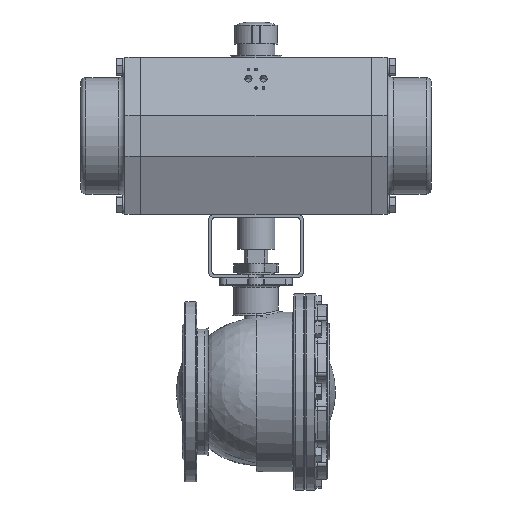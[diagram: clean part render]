
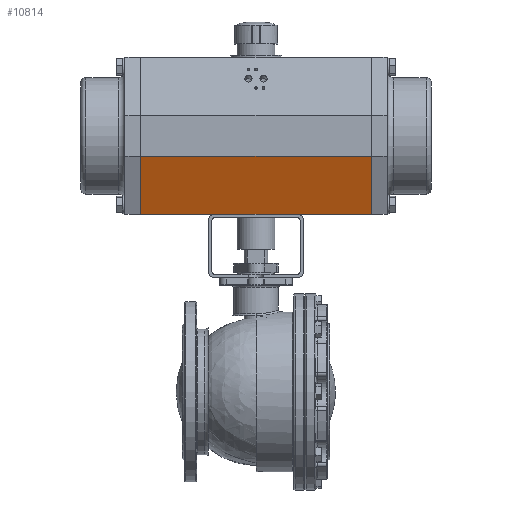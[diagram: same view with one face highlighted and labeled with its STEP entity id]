
A CAD part, top view. The second image highlights one B-rep face of the part: STEP entity #10814.
In plain terms, the highlighted planar face has unit normal (0, -0.376, 0.927) as drawn and (0.927, -0.376, 0) by its records, which use the part's own axes.
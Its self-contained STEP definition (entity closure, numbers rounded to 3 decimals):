
#14 = LINE ( 'NONE', #9259, #9759 ) ;
#112 = EDGE_CURVE ( 'NONE', #2714, #13408, #17050, .T. ) ;
#464 = VERTEX_POINT ( 'NONE', #13566 ) ;
#1952 = CARTESIAN_POINT ( 'NONE',  ( 107.5, -32.5, -183.5 ) ) ;
#2470 = DIRECTION ( 'NONE',  ( 0.927, -0.376, 0. ) ) ;
#2566 = DIRECTION ( 'NONE',  ( 0.376, 0.927, 0. ) ) ;
#2714 = VERTEX_POINT ( 'NONE', #12291 ) ;
#3321 = CARTESIAN_POINT ( 'NONE',  ( 107.5, -32.5, 183.5 ) ) ;
#3468 = LINE ( 'NONE', #1952, #10009 ) ;
#3599 = VECTOR ( 'NONE', #9431, 1000. ) ;
#4644 = DIRECTION ( 'NONE',  ( 0.376, 0.927, 0. ) ) ;
#5174 = ORIENTED_EDGE ( 'NONE', *, *, #14822, .T. ) ;
#6352 = EDGE_CURVE ( 'NONE', #464, #11580, #14, .T. ) ;
#6665 = ORIENTED_EDGE ( 'NONE', *, *, #6352, .F. ) ;
#6816 = EDGE_LOOP ( 'NONE', ( #5174, #6665, #7223, #9468 ) ) ;
#7223 = ORIENTED_EDGE ( 'NONE', *, *, #10884, .F. ) ;
#7567 = DIRECTION ( 'NONE',  ( 0.376, 0.927, 0. ) ) ;
#7638 = CARTESIAN_POINT ( 'NONE',  ( 70., -125., -183.5 ) ) ;
#9249 = VECTOR ( 'NONE', #4644, 1000. ) ;
#9259 = CARTESIAN_POINT ( 'NONE',  ( 70., -125., 183.5 ) ) ;
#9431 = DIRECTION ( 'NONE',  ( 0., 0., 1. ) ) ;
#9468 = ORIENTED_EDGE ( 'NONE', *, *, #112, .T. ) ;
#9759 = VECTOR ( 'NONE', #7567, 1000. ) ;
#10009 = VECTOR ( 'NONE', #11018, 1000. ) ;
#10048 = CARTESIAN_POINT ( 'NONE',  ( 70., -125., -183.5 ) ) ;
#10814 = ADVANCED_FACE ( 'NONE', ( #16188 ), #13222, .T. ) ;
#10884 = EDGE_CURVE ( 'NONE', #2714, #464, #16779, .T. ) ;
#11018 = DIRECTION ( 'NONE',  ( 0., 0., 1. ) ) ;
#11580 = VERTEX_POINT ( 'NONE', #3321 ) ;
#11845 = AXIS2_PLACEMENT_3D ( 'NONE', #10048, #2470, #2566 ) ;
#11933 = CARTESIAN_POINT ( 'NONE',  ( 107.5, -32.5, -183.5 ) ) ;
#12291 = CARTESIAN_POINT ( 'NONE',  ( 70., -125., -183.5 ) ) ;
#13222 = PLANE ( 'NONE',  #11845 ) ;
#13408 = VERTEX_POINT ( 'NONE', #11933 ) ;
#13566 = CARTESIAN_POINT ( 'NONE',  ( 70., -125., 183.5 ) ) ;
#13690 = CARTESIAN_POINT ( 'NONE',  ( 70., -125., -183.5 ) ) ;
#14822 = EDGE_CURVE ( 'NONE', #13408, #11580, #3468, .T. ) ;
#16188 = FACE_OUTER_BOUND ( 'NONE', #6816, .T. ) ;
#16779 = LINE ( 'NONE', #7638, #3599 ) ;
#17050 = LINE ( 'NONE', #13690, #9249 ) ;
